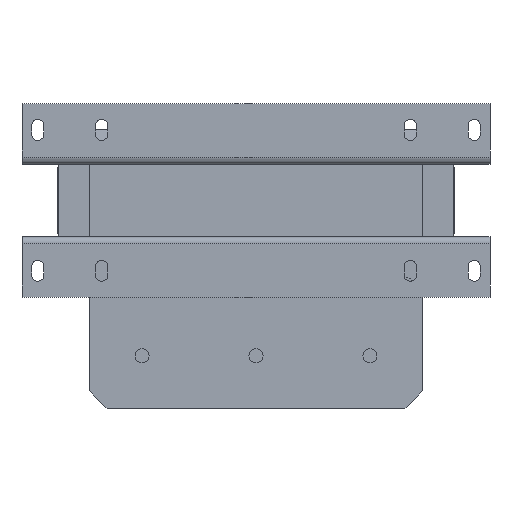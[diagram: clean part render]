
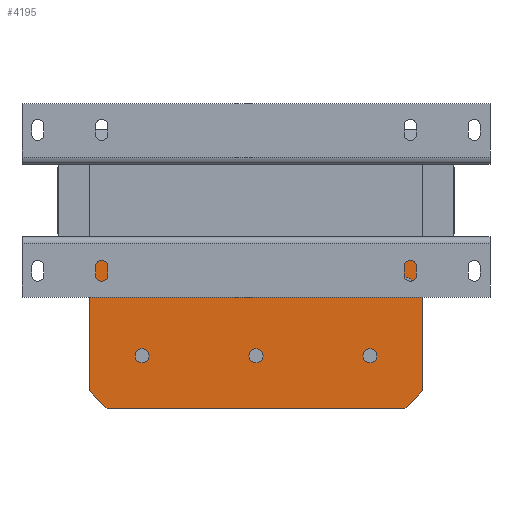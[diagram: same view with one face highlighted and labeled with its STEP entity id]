
A CAD part, front view. The second image highlights one B-rep face of the part: STEP entity #4195.
In plain terms, the highlighted planar face has unit normal (0, -1, 0).
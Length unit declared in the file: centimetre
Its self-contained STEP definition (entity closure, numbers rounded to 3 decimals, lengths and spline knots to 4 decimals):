
#195 = PLANE ( 'NONE',  #16234 ) ;
#330 = ORIENTED_EDGE ( 'NONE', *, *, #23114, .T. ) ;
#648 = EDGE_LOOP ( 'NONE', ( #23022, #6892 ) ) ;
#1138 = CARTESIAN_POINT ( 'NONE',  ( -9.5, 3.85, -10.87 ) ) ;
#1970 = DIRECTION ( 'NONE',  ( 0., 1., 0. ) ) ;
#2082 = DIRECTION ( 'NONE',  ( 0., 0., 1. ) ) ;
#2156 = CIRCLE ( 'NONE', #8118, 0.5 ) ;
#2241 = CARTESIAN_POINT ( 'NONE',  ( 0., 3.85, -8.87 ) ) ;
#2584 = EDGE_CURVE ( 'NONE', #15816, #16703, #12368, .T. ) ;
#2657 = DIRECTION ( 'NONE',  ( 0., 0., 1. ) ) ;
#2720 = CARTESIAN_POINT ( 'NONE',  ( 8.5, 3.85, -4.87 ) ) ;
#3108 = CARTESIAN_POINT ( 'NONE',  ( 8.5, 3.85, -11.87 ) ) ;
#3244 = AXIS2_PLACEMENT_3D ( 'NONE', #2720, #19748, #8691 ) ;
#3364 = EDGE_CURVE ( 'NONE', #7398, #21933, #15661, .T. ) ;
#3399 = VERTEX_POINT ( 'NONE', #11069 ) ;
#3970 = CARTESIAN_POINT ( 'NONE',  ( -8.5, 3.85, -11.87 ) ) ;
#4195 = ADVANCED_FACE ( 'NONE', ( #18831, #9370, #5182, #22349, #9495 ), #195, .F. ) ;
#4218 = DIRECTION ( 'NONE',  ( 0., 0., 1. ) ) ;
#4377 = CARTESIAN_POINT ( 'NONE',  ( 6.9, 3.85, -8.87 ) ) ;
#4974 = AXIS2_PLACEMENT_3D ( 'NONE', #23574, #6508, #2657 ) ;
#5049 = CARTESIAN_POINT ( 'NONE',  ( -6.1, 3.85, -8.87 ) ) ;
#5182 = FACE_BOUND ( 'NONE', #7696, .T. ) ;
#5263 = ORIENTED_EDGE ( 'NONE', *, *, #12894, .F. ) ;
#5659 = CARTESIAN_POINT ( 'NONE',  ( -6.5, 3.85, -8.87 ) ) ;
#5683 = CIRCLE ( 'NONE', #22002, 0.4 ) ;
#5783 = DIRECTION ( 'NONE',  ( 0., 0., 1. ) ) ;
#6055 = ORIENTED_EDGE ( 'NONE', *, *, #2584, .F. ) ;
#6508 = DIRECTION ( 'NONE',  ( 0., 1., 0. ) ) ;
#6707 = EDGE_CURVE ( 'NONE', #3399, #12802, #8926, .T. ) ;
#6892 = ORIENTED_EDGE ( 'NONE', *, *, #12047, .T. ) ;
#7398 = VERTEX_POINT ( 'NONE', #22217 ) ;
#7535 = AXIS2_PLACEMENT_3D ( 'NONE', #5659, #20709, #15564 ) ;
#7696 = EDGE_LOOP ( 'NONE', ( #21531, #12955 ) ) ;
#7869 = VECTOR ( 'NONE', #9665, 100. ) ;
#8118 = AXIS2_PLACEMENT_3D ( 'NONE', #15762, #22903, #13281 ) ;
#8565 = VERTEX_POINT ( 'NONE', #5049 ) ;
#8684 = DIRECTION ( 'NONE',  ( 0., 0., -1. ) ) ;
#8691 = DIRECTION ( 'NONE',  ( 0., 0., 1. ) ) ;
#8753 = CARTESIAN_POINT ( 'NONE',  ( -9.5, 3.85, -2.97 ) ) ;
#8926 = CIRCLE ( 'NONE', #20397, 0.4 ) ;
#9082 = ORIENTED_EDGE ( 'NONE', *, *, #13476, .T. ) ;
#9293 = CARTESIAN_POINT ( 'NONE',  ( 6.5, 3.85, -8.87 ) ) ;
#9329 = EDGE_CURVE ( 'NONE', #19844, #12033, #23039, .T. ) ;
#9370 = FACE_OUTER_BOUND ( 'NONE', #15775, .T. ) ;
#9495 = FACE_BOUND ( 'NONE', #648, .T. ) ;
#9579 = AXIS2_PLACEMENT_3D ( 'NONE', #13536, #21154, #11666 ) ;
#9651 = CARTESIAN_POINT ( 'NONE',  ( 8.5, 3.85, -4.37 ) ) ;
#9665 = DIRECTION ( 'NONE',  ( -1., 0., 0. ) ) ;
#10178 = EDGE_CURVE ( 'NONE', #8565, #22360, #19060, .T. ) ;
#10239 = CARTESIAN_POINT ( 'NONE',  ( 0.4, 3.85, -8.87 ) ) ;
#10775 = ORIENTED_EDGE ( 'NONE', *, *, #3364, .T. ) ;
#10927 = VECTOR ( 'NONE', #8684, 100. ) ;
#10964 = CARTESIAN_POINT ( 'NONE',  ( 6.5, 3.85, -8.87 ) ) ;
#10977 = CARTESIAN_POINT ( 'NONE',  ( 9.5, 3.85, -2.97 ) ) ;
#11069 = CARTESIAN_POINT ( 'NONE',  ( 6.1, 3.85, -8.87 ) ) ;
#11203 = LINE ( 'NONE', #10977, #20127 ) ;
#11290 = AXIS2_PLACEMENT_3D ( 'NONE', #2241, #19270, #4218 ) ;
#11666 = DIRECTION ( 'NONE',  ( 0., 0., 1. ) ) ;
#12033 = VERTEX_POINT ( 'NONE', #3970 ) ;
#12047 = EDGE_CURVE ( 'NONE', #22360, #8565, #15134, .T. ) ;
#12170 = ORIENTED_EDGE ( 'NONE', *, *, #12251, .T. ) ;
#12251 = EDGE_CURVE ( 'NONE', #23863, #17448, #16637, .T. ) ;
#12368 = CIRCLE ( 'NONE', #3244, 0.5 ) ;
#12393 = EDGE_CURVE ( 'NONE', #23863, #12033, #22888, .T. ) ;
#12802 = VERTEX_POINT ( 'NONE', #4377 ) ;
#12894 = EDGE_CURVE ( 'NONE', #16703, #15816, #2156, .T. ) ;
#12955 = ORIENTED_EDGE ( 'NONE', *, *, #6707, .T. ) ;
#13040 = VECTOR ( 'NONE', #19649, 100. ) ;
#13281 = DIRECTION ( 'NONE',  ( 0., 0., 1. ) ) ;
#13476 = EDGE_CURVE ( 'NONE', #21933, #7398, #14862, .T. ) ;
#13536 = CARTESIAN_POINT ( 'NONE',  ( -6.5, 3.85, -8.87 ) ) ;
#13823 = CARTESIAN_POINT ( 'NONE',  ( 8.5, 3.85, -11.87 ) ) ;
#14022 = CARTESIAN_POINT ( 'NONE',  ( 9.5, 3.85, -10.87 ) ) ;
#14467 = VERTEX_POINT ( 'NONE', #20788 ) ;
#14862 = CIRCLE ( 'NONE', #11290, 0.4 ) ;
#14891 = EDGE_CURVE ( 'NONE', #18351, #19844, #16640, .T. ) ;
#15106 = EDGE_CURVE ( 'NONE', #14467, #17448, #23764, .T. ) ;
#15134 = CIRCLE ( 'NONE', #9579, 0.4 ) ;
#15169 = ORIENTED_EDGE ( 'NONE', *, *, #12393, .F. ) ;
#15204 = CARTESIAN_POINT ( 'NONE',  ( 9.5, 3.85, -2.37 ) ) ;
#15564 = DIRECTION ( 'NONE',  ( 0., 0., 1. ) ) ;
#15661 = CIRCLE ( 'NONE', #4974, 0.4 ) ;
#15762 = CARTESIAN_POINT ( 'NONE',  ( 8.5, 3.85, -4.87 ) ) ;
#15775 = EDGE_LOOP ( 'NONE', ( #24055, #15169, #12170, #22869, #330, #19315 ) ) ;
#15816 = VERTEX_POINT ( 'NONE', #21689 ) ;
#16234 = AXIS2_PLACEMENT_3D ( 'NONE', #15204, #19436, #5783 ) ;
#16304 = DIRECTION ( 'NONE',  ( 0., 0., 1. ) ) ;
#16637 = LINE ( 'NONE', #3108, #18724 ) ;
#16640 = LINE ( 'NONE', #20887, #21319 ) ;
#16679 = EDGE_LOOP ( 'NONE', ( #5263, #6055 ) ) ;
#16703 = VERTEX_POINT ( 'NONE', #9651 ) ;
#17448 = VERTEX_POINT ( 'NONE', #14022 ) ;
#18351 = VERTEX_POINT ( 'NONE', #8753 ) ;
#18724 = VECTOR ( 'NONE', #24269, 100. ) ;
#18811 = DIRECTION ( 'NONE',  ( -1., 0., 0. ) ) ;
#18831 = FACE_BOUND ( 'NONE', #16679, .T. ) ;
#19060 = CIRCLE ( 'NONE', #7535, 0.4 ) ;
#19270 = DIRECTION ( 'NONE',  ( 0., 1., 0. ) ) ;
#19315 = ORIENTED_EDGE ( 'NONE', *, *, #14891, .T. ) ;
#19436 = DIRECTION ( 'NONE',  ( 0., 1., 0. ) ) ;
#19649 = DIRECTION ( 'NONE',  ( 0.707, 0., -0.707 ) ) ;
#19748 = DIRECTION ( 'NONE',  ( 0., -1., 0. ) ) ;
#19844 = VERTEX_POINT ( 'NONE', #22531 ) ;
#20127 = VECTOR ( 'NONE', #18811, 100. ) ;
#20386 = EDGE_CURVE ( 'NONE', #12802, #3399, #5683, .T. ) ;
#20397 = AXIS2_PLACEMENT_3D ( 'NONE', #9293, #1970, #2082 ) ;
#20709 = DIRECTION ( 'NONE',  ( 0., 1., 0. ) ) ;
#20776 = EDGE_LOOP ( 'NONE', ( #9082, #10775 ) ) ;
#20788 = CARTESIAN_POINT ( 'NONE',  ( 9.5, 3.85, -2.97 ) ) ;
#20885 = CARTESIAN_POINT ( 'NONE',  ( 9.5, 3.85, -11.87 ) ) ;
#20887 = CARTESIAN_POINT ( 'NONE',  ( -9.5, 3.85, -2.37 ) ) ;
#21154 = DIRECTION ( 'NONE',  ( 0., 1., 0. ) ) ;
#21319 = VECTOR ( 'NONE', #24632, 100. ) ;
#21531 = ORIENTED_EDGE ( 'NONE', *, *, #20386, .T. ) ;
#21689 = CARTESIAN_POINT ( 'NONE',  ( 8.5, 3.85, -5.37 ) ) ;
#21933 = VERTEX_POINT ( 'NONE', #10239 ) ;
#22002 = AXIS2_PLACEMENT_3D ( 'NONE', #10964, #22316, #16304 ) ;
#22217 = CARTESIAN_POINT ( 'NONE',  ( -0.4, 3.85, -8.87 ) ) ;
#22316 = DIRECTION ( 'NONE',  ( 0., 1., 0. ) ) ;
#22349 = FACE_BOUND ( 'NONE', #20776, .T. ) ;
#22360 = VERTEX_POINT ( 'NONE', #22758 ) ;
#22531 = CARTESIAN_POINT ( 'NONE',  ( -9.5, 3.85, -10.87 ) ) ;
#22758 = CARTESIAN_POINT ( 'NONE',  ( -6.9, 3.85, -8.87 ) ) ;
#22869 = ORIENTED_EDGE ( 'NONE', *, *, #15106, .F. ) ;
#22888 = LINE ( 'NONE', #20885, #7869 ) ;
#22903 = DIRECTION ( 'NONE',  ( 0., -1., 0. ) ) ;
#23022 = ORIENTED_EDGE ( 'NONE', *, *, #10178, .T. ) ;
#23039 = LINE ( 'NONE', #1138, #13040 ) ;
#23114 = EDGE_CURVE ( 'NONE', #14467, #18351, #11203, .T. ) ;
#23507 = CARTESIAN_POINT ( 'NONE',  ( 9.5, 3.85, -2.37 ) ) ;
#23574 = CARTESIAN_POINT ( 'NONE',  ( 0., 3.85, -8.87 ) ) ;
#23764 = LINE ( 'NONE', #23507, #10927 ) ;
#23863 = VERTEX_POINT ( 'NONE', #13823 ) ;
#24055 = ORIENTED_EDGE ( 'NONE', *, *, #9329, .T. ) ;
#24269 = DIRECTION ( 'NONE',  ( 0.707, 0., 0.707 ) ) ;
#24632 = DIRECTION ( 'NONE',  ( 0., 0., -1. ) ) ;
